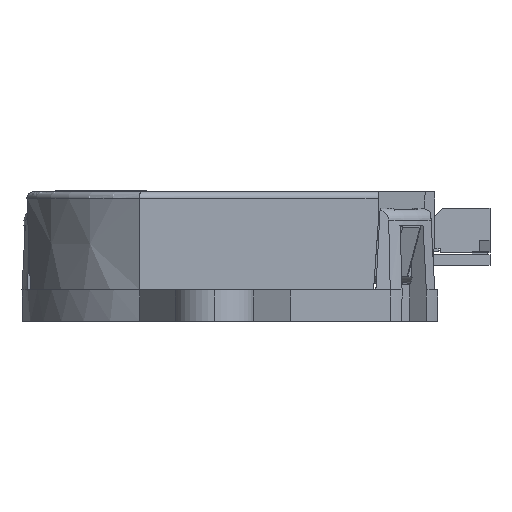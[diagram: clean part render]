
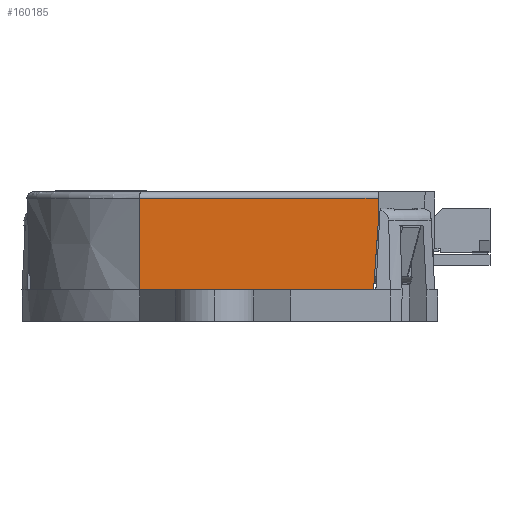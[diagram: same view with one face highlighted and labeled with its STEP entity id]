
A CAD part, left-side view. The second image highlights one B-rep face of the part: STEP entity #160185.
In plain terms, the highlighted planar face has unit normal (-1, 0, -0.018) as drawn and (1, 0, 0.017) by its records, which use the part's own axes.
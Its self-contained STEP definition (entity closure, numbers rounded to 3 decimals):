
#4487 = DIRECTION ( 'NONE',  ( -0.017, 0., 1. ) ) ;
#6523 = EDGE_CURVE ( 'NONE', #15301, #264016, #186802, .T. ) ;
#13029 = DIRECTION ( 'NONE',  ( -0.017, 0.07, 0.997 ) ) ;
#14286 = VECTOR ( 'NONE', #4487, 1000. ) ;
#15301 = VERTEX_POINT ( 'NONE', #32830 ) ;
#15614 = EDGE_CURVE ( 'NONE', #260501, #119393, #83548, .T. ) ;
#25057 = CARTESIAN_POINT ( 'NONE',  ( 14.291, 5.98, -0.791 ) ) ;
#28338 = CARTESIAN_POINT ( 'NONE',  ( 14.206, 5.961, 4.07 ) ) ;
#32830 = CARTESIAN_POINT ( 'NONE',  ( 14.164, -12.648, 6.5 ) ) ;
#37576 = B_SPLINE_CURVE_WITH_KNOTS ( 'NONE', 3,
 ( #266113, #28338, #204217, #265170 ),
 .UNSPECIFIED., .F., .F.,
 ( 4, 4 ),
 ( 0., 0.007 ),
 .UNSPECIFIED. ) ;
#40091 = DIRECTION ( 'NONE',  ( 1., 0., 0.017 ) ) ;
#46866 = EDGE_CURVE ( 'NONE', #119705, #15301, #99457, .T. ) ;
#55211 = EDGE_CURVE ( 'NONE', #264016, #119393, #37576, .T. ) ;
#56614 = FACE_OUTER_BOUND ( 'NONE', #164613, .T. ) ;
#59894 = VECTOR ( 'NONE', #177366, 1000. ) ;
#63580 = PLANE ( 'NONE',  #67645 ) ;
#65336 = DIRECTION ( 'NONE',  ( 0.017, 0., -1. ) ) ;
#67645 = AXIS2_PLACEMENT_3D ( 'NONE', #277857, #40091, #65336 ) ;
#69906 = EDGE_CURVE ( 'NONE', #260501, #119705, #186006, .T. ) ;
#83548 = LINE ( 'NONE', #25057, #59894 ) ;
#99457 = LINE ( 'NONE', #269714, #220591 ) ;
#104710 = CARTESIAN_POINT ( 'NONE',  ( 14.164, 5.953, 6.5 ) ) ;
#108947 = CARTESIAN_POINT ( 'NONE',  ( 14.3, -13.005, -1.3 ) ) ;
#110292 = CARTESIAN_POINT ( 'NONE',  ( 14.291, -13.005, -0.791 ) ) ;
#119393 = VERTEX_POINT ( 'NONE', #160061 ) ;
#119705 = VERTEX_POINT ( 'NONE', #252207 ) ;
#120473 = DIRECTION ( 'NONE',  ( 0., 1., 0. ) ) ;
#126109 = ORIENTED_EDGE ( 'NONE', *, *, #46866, .F. ) ;
#127132 = ORIENTED_EDGE ( 'NONE', *, *, #15614, .T. ) ;
#141684 = ORIENTED_EDGE ( 'NONE', *, *, #6523, .F. ) ;
#146570 = VECTOR ( 'NONE', #120473, 1000. ) ;
#152283 = ORIENTED_EDGE ( 'NONE', *, *, #55211, .F. ) ;
#160061 = CARTESIAN_POINT ( 'NONE',  ( 14.291, 5.978, -0.791 ) ) ;
#160185 = ADVANCED_FACE ( 'NONE', ( #56614 ), #63580, .T. ) ;
#164613 = EDGE_LOOP ( 'NONE', ( #260112, #127132, #152283, #141684, #126109 ) ) ;
#177366 = DIRECTION ( 'NONE',  ( 0., 1., 0. ) ) ;
#186006 = LINE ( 'NONE', #108947, #14286 ) ;
#186802 = LINE ( 'NONE', #270730, #146570 ) ;
#204217 = CARTESIAN_POINT ( 'NONE',  ( 14.249, 5.97, 1.639 ) ) ;
#220591 = VECTOR ( 'NONE', #13029, 1000. ) ;
#252207 = CARTESIAN_POINT ( 'NONE',  ( 14.253, -13.005, 1.4 ) ) ;
#260112 = ORIENTED_EDGE ( 'NONE', *, *, #69906, .F. ) ;
#260501 = VERTEX_POINT ( 'NONE', #110292 ) ;
#264016 = VERTEX_POINT ( 'NONE', #104710 ) ;
#265170 = CARTESIAN_POINT ( 'NONE',  ( 14.291, 5.978, -0.791 ) ) ;
#266113 = CARTESIAN_POINT ( 'NONE',  ( 14.164, 5.953, 6.5 ) ) ;
#269714 = CARTESIAN_POINT ( 'NONE',  ( 14.284, -13.13, -0.382 ) ) ;
#270730 = CARTESIAN_POINT ( 'NONE',  ( 14.164, 0., 6.5 ) ) ;
#277857 = CARTESIAN_POINT ( 'NONE',  ( 14.3, 0., -1.3 ) ) ;
